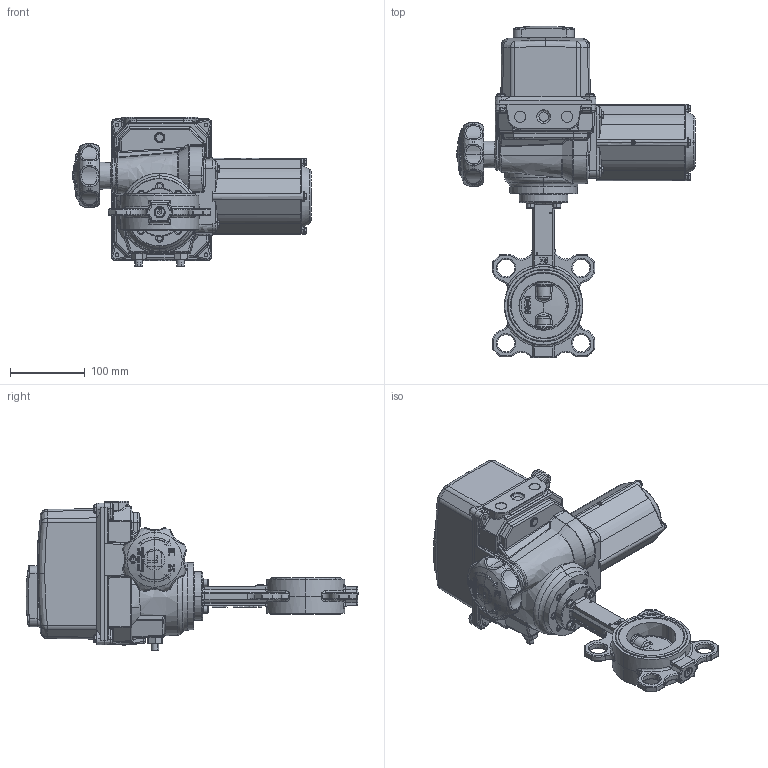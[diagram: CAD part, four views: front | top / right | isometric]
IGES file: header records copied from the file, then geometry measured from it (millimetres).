
Start section: SolidWorks IGES file using NURBS representation for surfaces
Global section: file name: H:\BE BIBLIOTHEQUE 3D\Projet_Biblio3D_2016\FSK\VPI\VPI-B04\VPI-B04 DN65.Igs; native system: SolidWorks 2014; preprocessor: SolidWorks 2014; author: a.cartier; date: 160929.163754; units: millimetre
Bounding box: 319.25 x 444.8 x 199.8 mm (x, y, z)
Volume: 5324940.9 mm3; surface area: 336478.4 mm2
Topology: 14 solids, 14 shells, 2994 faces, 7741 edges, 4783 vertices
Faces by surface type: bspline 2994
